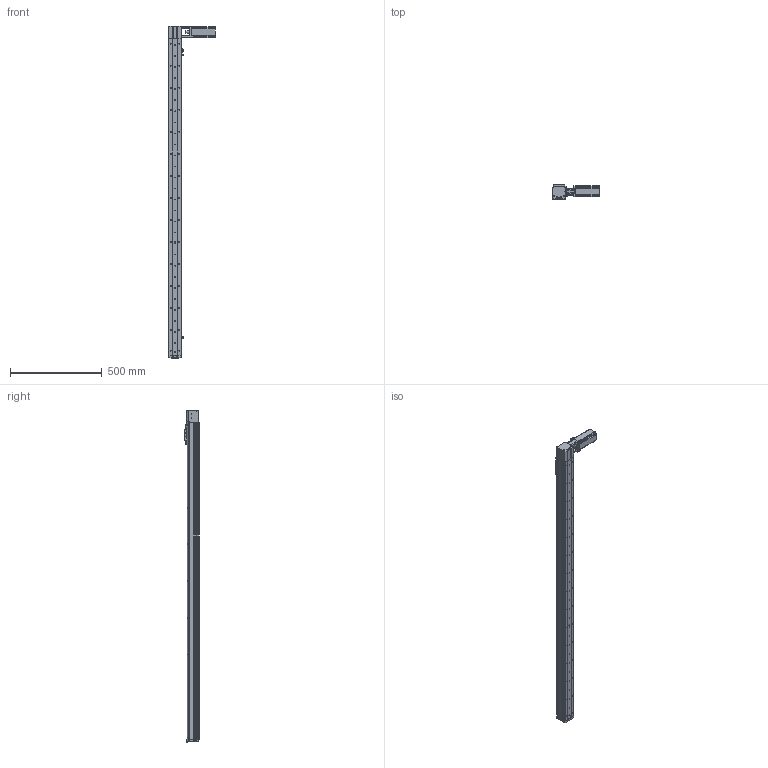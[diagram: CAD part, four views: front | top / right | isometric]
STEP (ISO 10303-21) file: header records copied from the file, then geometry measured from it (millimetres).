
FILE_DESCRIPTION (( 'STEP AP214' ), '1' );
FILE_NAME ('KSD68BS-S1550-MRT-CR.STEP', '2019-11-07T06:57:00', ( '微软用户' ), ( '微软中国' ), 'SwSTEP 2.0', 'SolidWorks 2014', '' );
FILE_SCHEMA (( 'AUTOMOTIVE_DESIGN' ));
Length unit declared in the file: millimetre
Products named in the file (13): 100遵鎮湛假蚾啣1; KSD68BS 1550行程盖板全封闭; 68遵裔啣揤啣1; 68宽单导轨全封闭丝杆传动安装板1防护罩; KSD68BS 1550行程侧板全封闭; 68宽单导轨全封闭同步带端板; 68单导轨全封闭同步带电机座左; 68单导轨全封闭同步带安装板; 感应片68宽全封闭; U倰嫖萇EEㄜSX672; 台达ECMA－C20604AS伺服电机（400W); KSD68BS 1550行程底板全封闭; KSD68BS-S1550-MRT-CR
Assembly tree (16 placements, depth 2):
  KSD68BS-S1550-MRT-CR
    KSD68BS 1550行程底板全封闭
    台达ECMA－C20604AS伺服电机（400W)
    U倰嫖萇EEㄜSX672  x3
    感应片68宽全封闭
    68单导轨全封闭同步带安装板
    68单导轨全封闭同步带电机座左
    68宽单导轨全封闭同步带端板
    KSD68BS 1550行程侧板全封闭  x2
    68宽单导轨全封闭丝杆传动安装板1防护罩
    68遵裔啣揤啣1  x2
    KSD68BS 1550行程盖板全封闭
    100遵鎮湛假蚾啣1
Bounding box: 252.7 x 77 x 1808.1 mm (x, y, z)
Volume: 3225931.9 mm3; surface area: 1283389.6 mm2
Topology: 17 solids, 17 shells, 1545 faces, 4454 edges, 2834 vertices
Faces by surface type: cylinder 755, plane 602, cone 188
Entity records: 50458 total; most frequent: CARTESIAN_POINT 8791, DIRECTION 7437, ORIENTED_EDGE 7120, EDGE_CURVE 3560, AXIS2_PLACEMENT_3D 2716, VERTEX_POINT 2332, LINE 2005, VECTOR 2005
